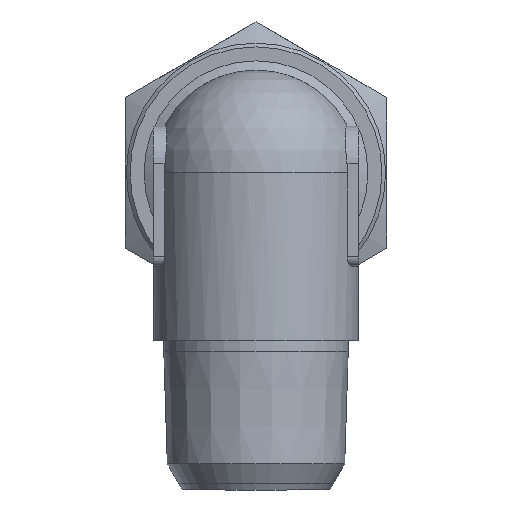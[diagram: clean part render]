
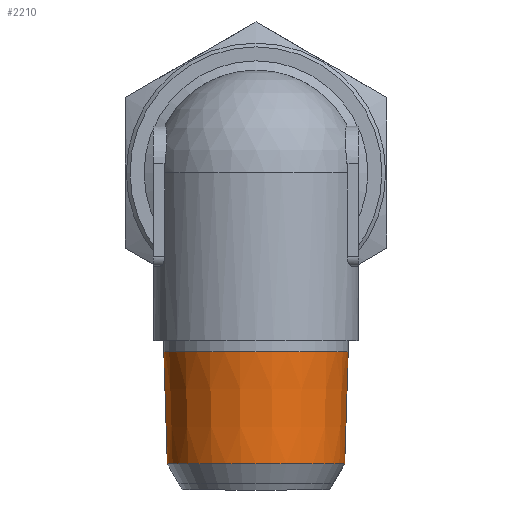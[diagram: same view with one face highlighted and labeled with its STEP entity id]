
A CAD part, left-side view. The second image highlights one B-rep face of the part: STEP entity #2210.
In plain terms, the highlighted conical face has half-angle 1.79 degrees and reference radius 4.942 mm.
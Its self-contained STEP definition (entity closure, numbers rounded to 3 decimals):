
#2210=ADVANCED_FACE('', (#2220,#2230), #2240, .T.);
#8150=AXIS2_PLACEMENT_3D('Ax2Pl3d', #8160, #8170, #8180);
#8230=AXIS2_PLACEMENT_3D('Ax2Pl3d', #8240, #8250, #8260);
#8270=AXIS2_PLACEMENT_3D('Ax2Pl3d', #8280, #8290, #8300);
#8160=CARTESIAN_POINT('HicPkt', (7.953,8.868,
7.874));
#39570=CARTESIAN_POINT('', (7.953,4.113,7.874));
#8240=CARTESIAN_POINT('HicPkt', (7.953,8.868,
13.874));
#8280=CARTESIAN_POINT('HicPkt', (7.953,8.868,
13.874));
#39590=CARTESIAN_POINT('', (7.953,3.926,13.874));
#40490=CIRCLE('Circle', #8150, 4.755);
#40510=CIRCLE('Circle', #8270, 4.942);
#2240=CONICAL_SURFACE('Kegel', #8230, 4.942, 
0.031);
#8170=DIRECTION('Axis', (0.,0.,-1.));
#8180=DIRECTION('RefDirection', (-1.,-0.,0.));
#8250=DIRECTION('Axis', (0.,0.,1.));
#8260=DIRECTION('RefDirection', (1.,0.,-0.));
#8290=DIRECTION('Axis', (0.,0.,-1.));
#8300=DIRECTION('RefDirection', (-1.,-0.,0.));
#48870=EDGE_CURVE('', #48880, #48880, #40490, .T.);
#48910=EDGE_CURVE('', #48920, #48920, #40510, .T.);
#53030=EDGE_LOOP('Edge_loop', (#53040));
#53050=EDGE_LOOP('Edge_loop', (#53060));
#2230=FACE_BOUND('', #53050, .T.);
#2220=FACE_OUTER_BOUND('Face_outer_bound', #53030, .T.);
#53040=ORIENTED_EDGE('', *, *, #48870, .F.);
#53060=ORIENTED_EDGE('', *, *, #48910, .T.);
#48880=VERTEX_POINT('', #39570);
#48920=VERTEX_POINT('', #39590);
